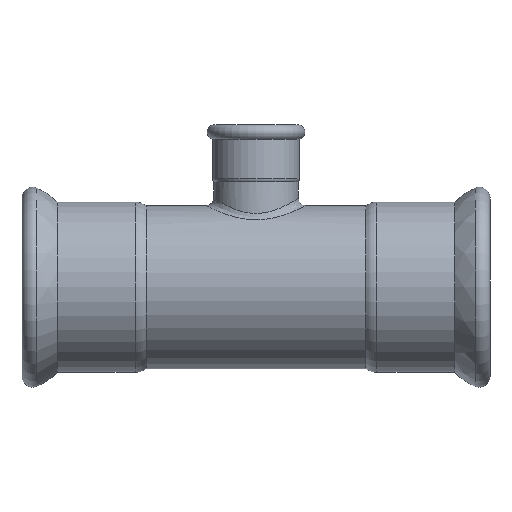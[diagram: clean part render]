
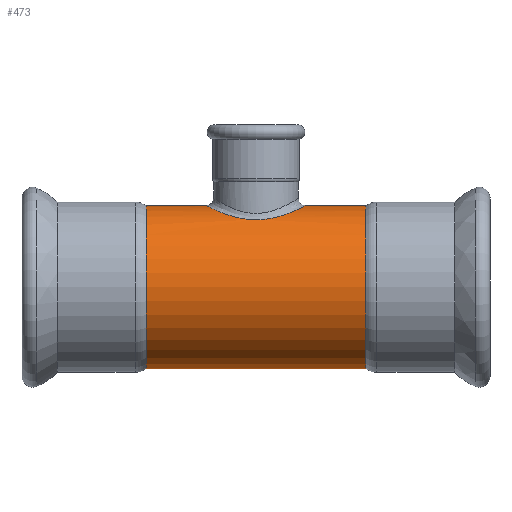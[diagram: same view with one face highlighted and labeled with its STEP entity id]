
A CAD part, front view. The second image highlights one B-rep face of the part: STEP entity #473.
In plain terms, the highlighted cylindrical face has radius 54 mm (diameter 108 mm), a full revolution.
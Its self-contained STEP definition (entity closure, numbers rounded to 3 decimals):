
#20=B_SPLINE_CURVE_WITH_KNOTS($,3,(#1499,#1500,#1501,#1502,#1503,#1504,
#1505,#1506,#1507,#1508,#1509,#1510,#1511,#1512,#1513,#1514,#1515,#1516,
#1517,#1518,#1519,#1520,#1521,#1522,#1523,#1524,#1525,#1526,#1527,#1528,
#1529,#1530,#1531,#1532,#1533,#1534),.UNSPECIFIED.,.T.,.F.,(4,1,1,1,1,1,
1,1,1,1,1,1,1,1,1,1,1,1,1,1,1,1,1,1,1,1,1,1,1,1,3,4),(-17.251,
-16.789,-16.635,-16.019,-15.403,
-14.941,-14.787,-14.376,-13.965,
-13.144,-12.322,-12.117,-11.501,
-10.679,-9.858,-9.344,-9.036,
-8.215,-7.393,-6.983,-5.75,
-5.203,-4.929,-4.107,-3.286,
-2.875,-2.464,-1.848,-1.232,-0.616,
0.,0.),.UNSPECIFIED.);
#58=FACE_BOUND($,#176,.T.);
#59=FACE_BOUND($,#177,.T.);
#89=CYLINDRICAL_SURFACE($,#543,54.);
#118=FACE_OUTER_BOUND($,#175,.T.);
#175=EDGE_LOOP($,(#408));
#176=EDGE_LOOP($,(#409));
#177=EDGE_LOOP($,(#410));
#245=CIRCLE($,#544,54.);
#246=CIRCLE($,#545,54.);
#288=VERTEX_POINT($,#1460);
#290=VERTEX_POINT($,#1537);
#291=VERTEX_POINT($,#1539);
#338=EDGE_CURVE($,#288,#288,#20,.T.);
#339=EDGE_CURVE($,#290,#290,#245,.T.);
#340=EDGE_CURVE($,#291,#291,#246,.T.);
#408=ORIENTED_EDGE($,*,*,#339,.T.);
#409=ORIENTED_EDGE($,*,*,#340,.F.);
#410=ORIENTED_EDGE($,*,*,#338,.F.);
#473=ADVANCED_FACE($,(#118,#58,#59),#89,.T.);
#543=AXIS2_PLACEMENT_3D($,#1536,#673,#674);
#544=AXIS2_PLACEMENT_3D($,#1538,#675,#676);
#545=AXIS2_PLACEMENT_3D($,#1540,#677,#678);
#673=DIRECTION('center_axis',(1.,0.,0.));
#674=DIRECTION('ref_axis',(0.,1.,0.));
#675=DIRECTION('center_axis',(1.,0.,0.));
#676=DIRECTION('ref_axis',(0.,1.,0.));
#677=DIRECTION('center_axis',(1.,0.,0.));
#678=DIRECTION('ref_axis',(0.,1.,0.));
#1460=CARTESIAN_POINT('',(-155.,30.203,44.763));
#1499=CARTESIAN_POINT('Ctrl Pts',(-155.,30.204,44.763));
#1500=CARTESIAN_POINT('Ctrl Pts',(-156.885,30.204,44.763));
#1501=CARTESIAN_POINT('Ctrl Pts',(-159.41,30.002,44.901));
#1502=CARTESIAN_POINT('Ctrl Pts',(-164.295,29.1,45.493));
#1503=CARTESIAN_POINT('Ctrl Pts',(-169.599,27.366,46.594));
#1504=CARTESIAN_POINT('Ctrl Pts',(-175.25,24.084,48.39));
#1505=CARTESIAN_POINT('Ctrl Pts',(-178.778,21.039,49.759));
#1506=CARTESIAN_POINT('Ctrl Pts',(-181.4,18.213,50.858));
#1507=CARTESIAN_POINT('Ctrl Pts',(-183.579,15.322,51.833));
#1508=CARTESIAN_POINT('Ctrl Pts',(-186.499,9.871,53.228));
#1509=CARTESIAN_POINT('Ctrl Pts',(-188.419,2.344,54.219));
#1510=CARTESIAN_POINT('Ctrl Pts',(-187.833,-4.648,53.91));
#1511=CARTESIAN_POINT('Ctrl Pts',(-186.072,-10.534,53.029));
#1512=CARTESIAN_POINT('Ctrl Pts',(-183.366,-16.102,51.712));
#1513=CARTESIAN_POINT('Ctrl Pts',(-177.736,-22.477,49.249));
#1514=CARTESIAN_POINT('Ctrl Pts',(-170.687,-26.914,46.862));
#1515=CARTESIAN_POINT('Ctrl Pts',(-164.523,-29.039,45.535));
#1516=CARTESIAN_POINT('Ctrl Pts',(-157.993,-30.318,44.69));
#1517=CARTESIAN_POINT('Ctrl Pts',(-149.891,-30.316,44.691));
#1518=CARTESIAN_POINT('Ctrl Pts',(-141.916,-28.011,46.213));
#1519=CARTESIAN_POINT('Ctrl Pts',(-133.47,-23.504,48.729));
#1520=CARTESIAN_POINT('Ctrl Pts',(-127.504,-17.671,51.304));
#1521=CARTESIAN_POINT('Ctrl Pts',(-124.038,-10.79,52.974));
#1522=CARTESIAN_POINT('Ctrl Pts',(-122.188,-4.91,53.9));
#1523=CARTESIAN_POINT('Ctrl Pts',(-121.583,2.334,54.217));
#1524=CARTESIAN_POINT('Ctrl Pts',(-123.496,9.861,53.231));
#1525=CARTESIAN_POINT('Ctrl Pts',(-126.412,15.306,51.837));
#1526=CARTESIAN_POINT('Ctrl Pts',(-129.628,19.583,50.398));
#1527=CARTESIAN_POINT('Ctrl Pts',(-134.232,23.783,48.555));
#1528=CARTESIAN_POINT('Ctrl Pts',(-140.387,27.36,46.598));
#1529=CARTESIAN_POINT('Ctrl Pts',(-147.464,29.677,45.126));
#1530=CARTESIAN_POINT('Ctrl Pts',(-152.482,30.203,44.763));
#1531=CARTESIAN_POINT('Ctrl Pts',(-154.996,30.204,44.763));
#1532=CARTESIAN_POINT('Ctrl Pts',(-154.998,30.204,44.763));
#1533=CARTESIAN_POINT('Ctrl Pts',(-154.999,30.204,44.763));
#1534=CARTESIAN_POINT('Ctrl Pts',(-155.,30.204,44.763));
#1536=CARTESIAN_POINT('Origin',(-218.9,0.,0.));
#1537=CARTESIAN_POINT('',(-227.8,54.,0.));
#1538=CARTESIAN_POINT('Origin',(-227.8,0.,0.));
#1539=CARTESIAN_POINT('',(-82.2,54.,0.));
#1540=CARTESIAN_POINT('Origin',(-82.2,0.,0.));
